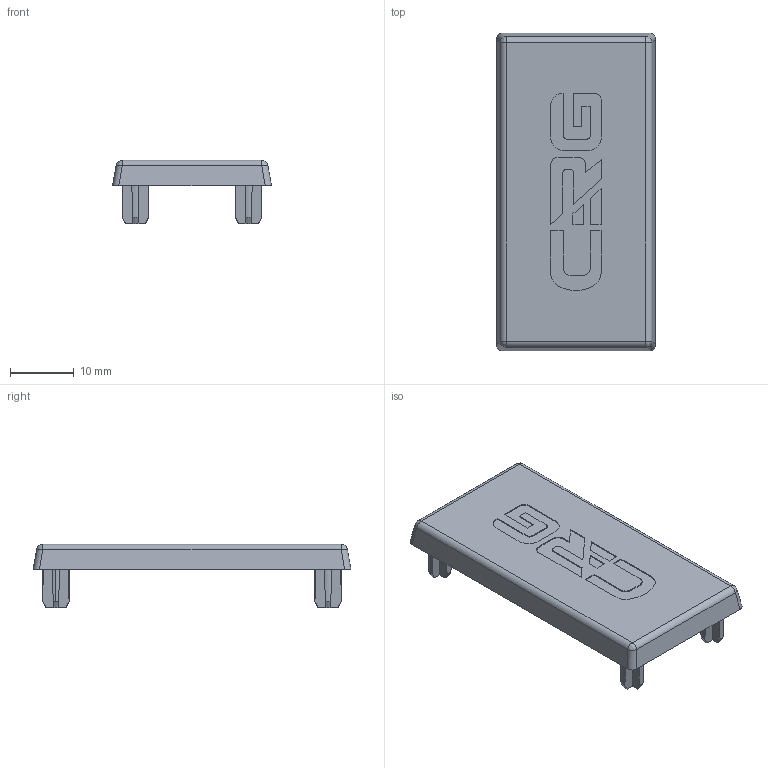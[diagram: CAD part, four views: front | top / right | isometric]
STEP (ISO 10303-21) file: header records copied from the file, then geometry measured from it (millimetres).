
FILE_DESCRIPTION (( 'STEP AP203' ), '1' );
FILE_NAME ('P5025.STEP', '2023-10-09T08:45:52', ( '微软用户' ), ( '微软中国' ), 'SwSTEP 2.0', 'SolidWorks 2019', '' );
FILE_SCHEMA (( 'CONFIG_CONTROL_DESIGN' ));
Length unit declared in the file: millimetre
Products named in the file (1): P5025
Bounding box: 25 x 50 x 9.99 mm (x, y, z)
Volume: 3144 mm3; surface area: 4058.4 mm2
Topology: 1 solids, 1 shells, 197 faces, 520 edges, 342 vertices
Faces by surface type: plane 123, cylinder 44, cone 26, bspline 4
Entity records: 6221 total; most frequent: CARTESIAN_POINT 1348, ORIENTED_EDGE 1040, DIRECTION 950, EDGE_CURVE 520, VERTEX_POINT 342, LINE 326, VECTOR 326, AXIS2_PLACEMENT_3D 312
